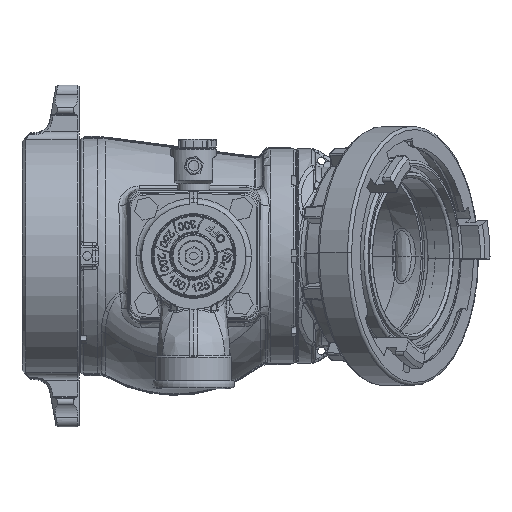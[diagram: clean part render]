
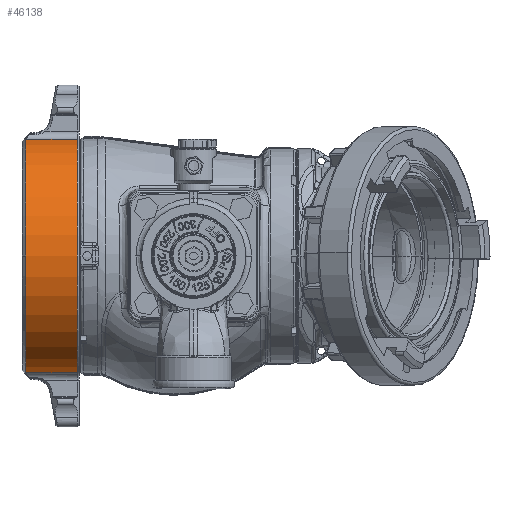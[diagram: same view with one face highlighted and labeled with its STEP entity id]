
A CAD part, front view. The second image highlights one B-rep face of the part: STEP entity #46138.
In plain terms, the highlighted cylindrical face has radius 98.425 mm (diameter 196.85 mm), a partial arc.
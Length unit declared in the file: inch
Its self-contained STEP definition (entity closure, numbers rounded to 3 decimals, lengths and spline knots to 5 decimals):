
#15859 = AXIS2_PLACEMENT_3D ( 'NONE', #29672, #29673, #29674 ) ;
#23529 = CIRCLE ( 'NONE', #15859, 3.875 ) ;
#29672 = CARTESIAN_POINT ( 'NONE',  ( -5.88715, -0.44219, 0. ) ) ;
#29673 = DIRECTION ( 'NONE',  ( -1., 0., 0. ) ) ;
#29674 = DIRECTION ( 'NONE',  ( 0., 1., 0. ) ) ;
#31230 = VERTEX_POINT ( 'NONE', #75233 ) ;
#31234 = VERTEX_POINT ( 'NONE', #75239 ) ;
#31237 = VERTEX_POINT ( 'NONE', #75242 ) ;
#31563 = VERTEX_POINT ( 'NONE', #75627 ) ;
#31566 = VERTEX_POINT ( 'NONE', #75629 ) ;
#44210 = FACE_OUTER_BOUND ( 'NONE', #96721, .T. ) ;
#44213 = CYLINDRICAL_SURFACE ( 'NONE', #83691, 3.875 ) ;
#46138 = ADVANCED_FACE ( 'NONE', ( #44210 ), #44213, .T. ) ;
#52849 = CIRCLE ( 'NONE', #71846, 3.875 ) ;
#52853 = LINE ( 'NONE', #60700, #52858 ) ;
#52858 = VECTOR ( 'NONE', #60701, 39.37008 ) ;
#52864 = LINE ( 'NONE', #60734, #52869 ) ;
#52866 = CIRCLE ( 'NONE', #71849, 3.875 ) ;
#52869 = VECTOR ( 'NONE', #60735, 39.37008 ) ;
#55797 = EDGE_CURVE ( 'NONE', #31566, #31563, #23529, .T. ) ;
#60700 = CARTESIAN_POINT ( 'NONE',  ( -6.01215, -1.13098, -3.81329 ) ) ;
#60701 = DIRECTION ( 'NONE',  ( 1., 0., 0. ) ) ;
#60734 = CARTESIAN_POINT ( 'NONE',  ( -6.01215, -1.13098, 3.81329 ) ) ;
#60735 = DIRECTION ( 'NONE',  ( 1., 0., 0. ) ) ;
#60754 = CARTESIAN_POINT ( 'NONE',  ( -4.21165, -0.44219, 0. ) ) ;
#60755 = DIRECTION ( 'NONE',  ( -1., 0., 0. ) ) ;
#60756 = DIRECTION ( 'NONE',  ( 0., 0., -1. ) ) ;
#60759 = CARTESIAN_POINT ( 'NONE',  ( -5.88715, -0.44219, 0. ) ) ;
#60760 = DIRECTION ( 'NONE',  ( -1., 0., 0. ) ) ;
#60761 = DIRECTION ( 'NONE',  ( 0., 1., 0. ) ) ;
#63974 = ORIENTED_EDGE ( 'NONE', *, *, #72448, .T. ) ;
#63976 = ORIENTED_EDGE ( 'NONE', *, *, #72455, .T. ) ;
#63978 = ORIENTED_EDGE ( 'NONE', *, *, #72456, .F. ) ;
#63980 = ORIENTED_EDGE ( 'NONE', *, *, #55797, .F. ) ;
#63981 = ORIENTED_EDGE ( 'NONE', *, *, #72459, .F. ) ;
#71846 = AXIS2_PLACEMENT_3D ( 'NONE', #60754, #60755, #60756 ) ;
#71849 = AXIS2_PLACEMENT_3D ( 'NONE', #60759, #60760, #60761 ) ;
#72448 = EDGE_CURVE ( 'NONE', #31234, #31230, #52853, .T. ) ;
#72455 = EDGE_CURVE ( 'NONE', #31230, #31237, #52849, .T. ) ;
#72456 = EDGE_CURVE ( 'NONE', #31563, #31237, #52864, .T. ) ;
#72459 = EDGE_CURVE ( 'NONE', #31234, #31566, #52866, .T. ) ;
#75233 = CARTESIAN_POINT ( 'NONE',  ( -4.21165, -1.13098, -3.81329 ) ) ;
#75239 = CARTESIAN_POINT ( 'NONE',  ( -5.88715, -1.13098, -3.81329 ) ) ;
#75242 = CARTESIAN_POINT ( 'NONE',  ( -4.21165, -1.13098, 3.81329 ) ) ;
#75627 = CARTESIAN_POINT ( 'NONE',  ( -5.88715, -1.13098, 3.81329 ) ) ;
#75629 = CARTESIAN_POINT ( 'NONE',  ( -5.88715, -4.31719, 0. ) ) ;
#79731 = DIRECTION ( 'NONE',  ( 0., 0., -1. ) ) ;
#79733 = DIRECTION ( 'NONE',  ( 1., 0., 0. ) ) ;
#79735 = CARTESIAN_POINT ( 'NONE',  ( -6.01215, -0.44219, 0. ) ) ;
#83691 = AXIS2_PLACEMENT_3D ( 'NONE', #79735, #79733, #79731 ) ;
#96721 = EDGE_LOOP ( 'NONE', ( #63974, #63976, #63978, #63980, #63981 ) ) ;
